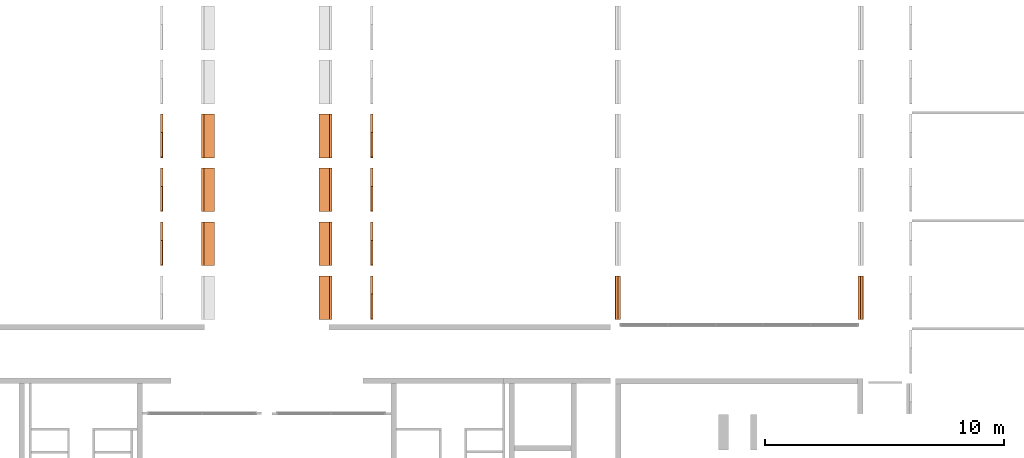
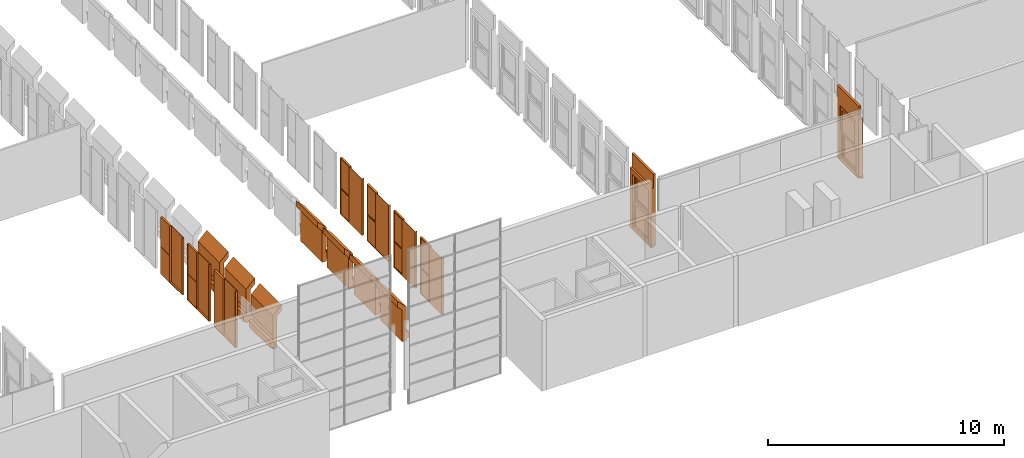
# One storey, part 11 of 16: 16 proxies.
"""IFC2X3 building model written with IfcOpenShell, lengths in millimetres."""

from ifc_helpers import new_model, entity, si_unit, converted_unit, derived_unit, direction, frame, frame_2d, origin, origin_2d_with_axis, place, context, subcontext, project, spatial, polyline, rectangle, outline, extrude, source, transform, mapped, material, material_list, type_object, type_shapes, element, save


model = new_model("IFC2X3")

# Units and contexts
model_context = context("Model", 3, precision=0.01, world=origin(), true_north=direction((6.12303176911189e-17, 1.0)))
body_context = subcontext(model_context, "Body", "Model", "MODEL_VIEW")
ifc_project = project(units=[si_unit("LENGTHUNIT", "METRE", prefix="MILLI"), si_unit("AREAUNIT", "SQUARE_METRE"), si_unit("VOLUMEUNIT", "CUBIC_METRE"), converted_unit("PLANEANGLEUNIT", "DEGREE", entity("IfcRatioMeasure", 0.0174532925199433), si_unit("PLANEANGLEUNIT", "RADIAN"), dimensions=[0, 0, 0, 0, 0, 0, 0]), si_unit("MASSUNIT", "GRAM", prefix="KILO"), derived_unit("MASSDENSITYUNIT", [(si_unit("MASSUNIT", "GRAM", prefix="KILO"), 1), (si_unit("LENGTHUNIT", "METRE"), -3)]), derived_unit("MOMENTOFINERTIAUNIT", [(si_unit("LENGTHUNIT", "METRE"), 4)]), si_unit("TIMEUNIT", "SECOND"), si_unit("FREQUENCYUNIT", "HERTZ"), si_unit("THERMODYNAMICTEMPERATUREUNIT", "DEGREE_CELSIUS"), derived_unit("THERMALTRANSMITTANCEUNIT", [(si_unit("MASSUNIT", "GRAM", prefix="KILO"), 1), (si_unit("THERMODYNAMICTEMPERATUREUNIT", "KELVIN"), -1), (si_unit("TIMEUNIT", "SECOND"), -3)]), derived_unit("VOLUMETRICFLOWRATEUNIT", [(si_unit("LENGTHUNIT", "METRE"), 3), (si_unit("TIMEUNIT", "SECOND"), -1)]), si_unit("ELECTRICCURRENTUNIT", "AMPERE"), si_unit("ELECTRICVOLTAGEUNIT", "VOLT"), si_unit("POWERUNIT", "WATT"), si_unit("FORCEUNIT", "NEWTON", prefix="KILO"), si_unit("ILLUMINANCEUNIT", "LUX"), si_unit("LUMINOUSFLUXUNIT", "LUMEN"), si_unit("LUMINOUSINTENSITYUNIT", "CANDELA"), derived_unit("USERDEFINED", [(si_unit("MASSUNIT", "GRAM", prefix="KILO"), -1), (si_unit("LENGTHUNIT", "METRE"), -2), (si_unit("TIMEUNIT", "SECOND"), 3), (si_unit("LUMINOUSFLUXUNIT", "LUMEN"), 1)]), derived_unit("LINEARVELOCITYUNIT", [(si_unit("LENGTHUNIT", "METRE"), 1), (si_unit("TIMEUNIT", "SECOND"), -1)]), si_unit("PRESSUREUNIT", "PASCAL"), derived_unit("USERDEFINED", [(si_unit("LENGTHUNIT", "METRE"), -2), (si_unit("MASSUNIT", "GRAM", prefix="KILO"), 1), (si_unit("TIMEUNIT", "SECOND"), -2)]), derived_unit("LINEARFORCEUNIT", [(si_unit("MASSUNIT", "GRAM", prefix="KILO"), 1), (si_unit("LENGTHUNIT", "METRE"), 1), (si_unit("TIMEUNIT", "SECOND"), -2), (si_unit("LENGTHUNIT", "METRE"), -1)]), derived_unit("PLANARFORCEUNIT", [(si_unit("MASSUNIT", "GRAM", prefix="KILO"), 1), (si_unit("LENGTHUNIT", "METRE"), 1), (si_unit("TIMEUNIT", "SECOND"), -2), (si_unit("LENGTHUNIT", "METRE"), -2)])], contexts=[model_context])

# Site, building, storey
site_placement = place(None, frame((10627.5135316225, 21939.0796949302, 0.0)))
site = spatial("IfcSite", under=ifc_project, at=site_placement, Name="Default", CompositionType="ELEMENT")
building_placement = place(site_placement, origin())
building = spatial("IfcBuilding", under=site, at=building_placement, CompositionType="ELEMENT")
storey_placement = place(building_placement, frame((0.0, 0.0, 3660.0)))
storey = spatial("IfcBuildingStorey", under=building, at=storey_placement, Name="R+1", CompositionType="ELEMENT", Elevation=3660.0)

# Proxies
ifc_material_1 = material(Name="PVC, Flexible")
ifc_material_2 = material(Name="Glass")
ifc_material_list_1 = material_list([ifc_material_1, ifc_material_2])
building_element_proxy_type_1 = type_object("IfcBuildingElementProxyType", Name="FENETRE.dwg:Fenetre ext 296+70", PredefinedType="NOTDEFINED", material=ifc_material_1)
shared_shape_1 = source(origin(), body_context, "Body", "SweptSolid", [
    extrude(rectangle(XDim=1829.99999999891, YDim=112.500043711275, at=origin_2d_with_axis()), frame((-10.4189092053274, 56.2500218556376, 2960.0), z_axis=(0.0, 0.0, 1.0), x_axis=(-1.0, 0.0, 0.0)), (0.0, 0.0, 1.0), 700.0),
    extrude(outline(polyline([(-68.5678005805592, -14.3879872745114), (-72.4883397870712, -33.9999574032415), (-67.5853472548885, -34.9800922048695), (-63.9024543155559, -16.5569155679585), (44.3087537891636, -16.5569155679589), (54.1101018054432, 32.4730097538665), (40.6268723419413, 35.1683804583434), (40.1368049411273, 32.7168841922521), (51.168538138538, 30.5115808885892), (42.1928709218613, -14.3879872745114), (-68.5678005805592, -14.3879872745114)])), frame((-925.418909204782, 66.917049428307, -47.5499763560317), z_axis=(-1.0, 0.0, 0.0), x_axis=(0.0, 0.980598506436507, -0.196026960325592)), (0.0, 0.0, -1.0), 1829.99999999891),
    extrude(outline(polyline([(-64.667066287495, -56.2500218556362), (66.1666874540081, -56.2500218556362), (66.1666874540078, 56.2500218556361), (-67.6663086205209, 56.2500218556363), (-64.667066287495, -56.2500218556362)])), frame((-925.418909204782, -56.2500218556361, -63.833312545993), z_axis=(1.0, 0.0, 0.0), x_axis=(0.0, 0.0, -1.0)), (0.0, 0.0, 1.0), 1829.99999999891),
    extrude(outline(polyline([(-55.5555555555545, 97.0007159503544), (-55.5555555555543, -5.85738417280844), (-55.5555555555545, -95.357341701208), (-45.5555555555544, -95.3573417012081), (-45.5555555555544, -105.357341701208), (174.444444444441, -105.357341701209), (174.444444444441, 106.642659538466), (-45.5555555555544, 106.642659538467), (-45.5555555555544, 97.0007159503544), (-55.5555555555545, 97.0007159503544)])), frame((849.025535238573, 5.85738417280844, 0.0), z_axis=(0.0, 0.0, -1.0), x_axis=(-1.0, 0.0, 0.0)), (0.0, 0.0, -1.0), 2960.0),
    extrude(rectangle(XDim=199.499957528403, YDim=1369.99999999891, at=origin_2d_with_axis()), frame((-10.4189092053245, 0.250021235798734, 2730.0), z_axis=(0.0, 0.0, 1.0), x_axis=(0.0, 1.0, 0.0)), (0.0, 0.0, 1.0), 230.000000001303),
    extrude(outline(polyline([(-97.0007159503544, -55.5555555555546), (5.85738417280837, -55.5555555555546), (95.357341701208, -55.5555555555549), (95.357341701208, -45.5555555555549), (105.357341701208, -45.5555555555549), (105.357341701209, 174.44444444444), (-106.642659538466, 174.444444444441), (-106.642659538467, -45.5555555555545), (-97.0007159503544, -45.5555555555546), (-97.0007159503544, -55.5555555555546)])), frame((-869.863353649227, 5.85738417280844, 0.0), z_axis=(0.0, 0.0, 1.0), x_axis=(0.0, -1.0, 0.0)), (0.0, 0.0, 1.0), 2960.0),
    extrude(rectangle(XDim=1.0, YDim=1079.99999999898, at=origin_2d_with_axis()), frame((-10.4189092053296, -19.5, 130.0), z_axis=(0.0, 0.0, 1.0), x_axis=(0.0, 1.0, 0.0)), (0.0, 0.0, 1.0), 1120.00000000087),
    extrude(rectangle(XDim=1.0, YDim=1079.99999999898, at=frame_2d((-4.21884749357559e-15, 0.0), x_axis=(1.0, 0.0))), frame((-10.4189092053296, -30.5, 130.0), z_axis=(0.0, 0.0, 1.0), x_axis=(0.0, 1.0, 0.0)), (0.0, 0.0, 1.0), 1120.00000000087),
    extrude(rectangle(XDim=1.0, YDim=1079.99999999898, at=frame_2d((-4.21884749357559e-15, 0.0), x_axis=(1.0, 0.0))), frame((-10.4189092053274, 69.5, 1465.0), z_axis=(0.0, 0.0, 1.0), x_axis=(0.0, 1.0, 0.0)), (0.0, 0.0, 1.0), 1120.0),
    extrude(rectangle(XDim=0.999999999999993, YDim=1079.99999999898, at=frame_2d((-8.46545056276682e-15, 0.0), x_axis=(1.0, 0.0))), frame((-10.4189092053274, 80.5, 1465.0), z_axis=(0.0, 0.0, 1.0), x_axis=(0.0, 1.0, 0.0)), (0.0, 0.0, 1.0), 1120.00000000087),
    extrude(outline(polyline([(-685.0, -1365.0), (0.0, -1365.0), (685.0, -1365.0), (685.0, 1365.0), (0.0, 1365.0), (-685.0, 1365.0), (-685.0, -1365.0)]), holes=[polyline([(-640.0, -1320.0), (-640.0, -45.0), (0.0, -45.0), (640.0, -45.0), (640.0, -1320.0), (0.0, -1320.0), (-640.0, -1320.0)]), polyline([(-640.0, 40.0), (-640.0, 1315.0), (0.0, 1315.0), (640.0, 1315.0), (640.0, 40.0), (0.0, 40.0), (-640.0, 40.0)])]), frame((-10.4189092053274, 0.0, 1365.0), z_axis=(0.0, 1.0, 0.0), x_axis=(1.0, 0.0, 0.0)), (0.0, 0.0, 1.0), 50.0),
    extrude(outline(polyline([(-655.0, -667.500000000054), (655.0, -667.500000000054), (655.0, 667.500000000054), (-655.0, 667.500000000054), (-655.0, -667.500000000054)]), holes=[polyline([(-540.0, 552.500000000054), (540.0, 552.500000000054), (540.0, -567.500000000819), (-540.0, -567.500000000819), (-540.0, 552.500000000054)])]), frame((-10.4189092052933, -50.0, 697.500000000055), z_axis=(0.0, 1.0, 0.0), x_axis=(-1.0, 0.0, 0.0)), (0.0, 0.0, 1.0), 50.0),
    extrude(outline(polyline([(-655.0, -667.500000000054), (655.0, -667.500000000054), (655.0, 667.500000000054), (-655.0, 667.500000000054), (-655.0, -667.500000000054)]), holes=[polyline([(-540.0, 552.500000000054), (540.0, 552.500000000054), (540.0, -567.500000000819), (-540.0, -567.500000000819), (-540.0, 552.500000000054)])]), frame((-10.4189092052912, 50.0, 2032.50000000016), z_axis=(0.0, 1.0, 0.0), x_axis=(-1.0, 0.0, 0.0)), (0.0, 0.0, 1.0), 50.0),
])
type_shapes(building_element_proxy_type_1, [shared_shape_1])
proxy_1_placement = place(storey_placement, frame((51469.9865120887, -14018.6607857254, 0.0), z_axis=(0.0, 0.0, 1.0), x_axis=(0.0, 1.0, 0.0)))
element("IfcBuildingElementProxy", 1, at=proxy_1_placement, inside=storey, type_object=building_element_proxy_type_1, material=ifc_material_list_1, Name="FENETRE.dwg:Fenetre ext 296+70", ObjectType="FENETRE.dwg:Fenetre ext 296+70", context=body_context, shape_type="MappedRepresentation", body=[
    mapped(shared_shape_1, transform((0.0, 0.0, 0.0), scale=1.0)),
])
ifc_material_list_2 = material_list([ifc_material_1, ifc_material_2])
building_element_proxy_type_2 = type_object("IfcBuildingElementProxyType", Name="FENETRE.dwg:Fenetre ext 296+70", PredefinedType="NOTDEFINED", material=ifc_material_1)
shared_shape_2 = source(origin(), body_context, "Body", "SweptSolid", [
    extrude(rectangle(XDim=112.500043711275, YDim=1829.99999999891, at=origin_2d_with_axis()), frame((-10.4189092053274, -56.2500218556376, 2960.0), z_axis=(0.0, 0.0, 1.0), x_axis=(0.0, 1.0, 0.0)), (0.0, 0.0, 1.0), 700.0),
    extrude(outline(polyline([(27.5499763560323, -64.4170494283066), (47.5499763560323, -64.4170494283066), (47.5499763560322, -59.4170494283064), (28.7622905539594, -59.4170494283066), (7.54997635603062, 46.6946996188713), (-42.4500236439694, 46.6946996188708), (-42.4500236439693, 32.9446996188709), (-39.9500236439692, 32.9446996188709), (-39.9500236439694, 44.1946996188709), (5.83789859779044, 44.1946996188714), (27.5499763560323, -64.4170494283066)])), frame((-925.418909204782, -66.917049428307, -47.5499763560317), z_axis=(1.0, 0.0, 0.0), x_axis=(0.0, 0.0, 1.0)), (0.0, 0.0, 1.0), 1829.99999999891),
    extrude(outline(polyline([(-54.506636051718, -66.1431859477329), (58.0333803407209, -66.1431859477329), (54.4666704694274, 67.6422744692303), (-57.9934147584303, 64.6440974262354), (-54.506636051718, -66.1431859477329)])), frame((-925.418909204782, 56.2500218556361, -63.833312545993), z_axis=(1.0, 0.0, 0.0), x_axis=(0.0, -0.999644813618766, 0.0266504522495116)), (0.0, 0.0, 1.0), 1829.99999999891),
    extrude(outline(polyline([(-97.0007159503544, -55.5555555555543), (5.85738417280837, -55.5555555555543), (95.357341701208, -55.5555555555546), (95.357341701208, -45.5555555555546), (105.357341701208, -45.5555555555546), (105.357341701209, 174.444444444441), (-106.642659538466, 174.444444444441), (-106.642659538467, -45.5555555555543), (-97.0007159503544, -45.5555555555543), (-97.0007159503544, -55.5555555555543)])), frame((849.025535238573, -5.85738417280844, 0.0), z_axis=(0.0, 0.0, 1.0), x_axis=(0.0, 1.0, 0.0)), (0.0, 0.0, 1.0), 2960.0),
    extrude(rectangle(XDim=1369.99999999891, YDim=199.499957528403, at=origin_2d_with_axis()), frame((-10.4189092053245, -0.250021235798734, 2730.0), z_axis=(0.0, 0.0, 1.0), x_axis=(-1.0, 0.0, 0.0)), (0.0, 0.0, 1.0), 230.000000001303),
    extrude(outline(polyline([(-55.5555555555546, 97.0007159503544), (-55.5555555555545, -5.85738417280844), (-55.5555555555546, -95.357341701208), (-45.5555555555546, -95.3573417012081), (-45.5555555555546, -105.357341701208), (174.444444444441, -105.357341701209), (174.444444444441, 106.642659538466), (-45.5555555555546, 106.642659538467), (-45.5555555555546, 97.0007159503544), (-55.5555555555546, 97.0007159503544)])), frame((-869.863353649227, -5.85738417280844, 0.0), z_axis=(0.0, 0.0, -1.0), x_axis=(1.0, 0.0, 0.0)), (0.0, 0.0, -1.0), 2960.0),
    extrude(rectangle(XDim=1079.99999999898, YDim=1.0, at=origin_2d_with_axis()), frame((-10.4189092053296, 19.5, 130.0), z_axis=(0.0, 0.0, 1.0), x_axis=(-1.0, 0.0, 0.0)), (0.0, 0.0, 1.0), 1120.00000000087),
    extrude(rectangle(XDim=1079.99999999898, YDim=1.0, at=origin_2d_with_axis()), frame((-10.4189092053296, 30.5, 130.0), z_axis=(0.0, 0.0, 1.0), x_axis=(-1.0, 0.0, 0.0)), (0.0, 0.0, 1.0), 1120.00000000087),
    extrude(rectangle(XDim=1079.99999999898, YDim=1.0, at=frame_2d((0.0, 4.21884749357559e-15), x_axis=(1.0, 0.0))), frame((-10.4189092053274, -69.5, 1465.0), z_axis=(0.0, 0.0, 1.0), x_axis=(-1.0, 0.0, 0.0)), (0.0, 0.0, 1.0), 1120.0),
    extrude(rectangle(XDim=1079.99999999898, YDim=0.999999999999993, at=frame_2d((0.0, -8.46545056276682e-15), x_axis=(1.0, 0.0))), frame((-10.4189092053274, -80.5, 1465.0), z_axis=(0.0, 0.0, 1.0), x_axis=(-1.0, 0.0, 0.0)), (0.0, 0.0, 1.0), 1120.00000000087),
    extrude(outline(polyline([(-685.0, -1365.0), (0.0, -1365.0), (685.0, -1365.0), (685.0, 1365.0), (0.0, 1365.0), (-685.0, 1365.0), (-685.0, -1365.0)]), holes=[polyline([(-640.0, -1320.0), (-640.0, -45.0), (0.0, -45.0), (640.0, -45.0), (640.0, -1320.0), (0.0, -1320.0), (-640.0, -1320.0)]), polyline([(-640.0, 40.0), (-640.0, 1315.0), (0.0, 1315.0), (640.0, 1315.0), (640.0, 40.0), (0.0, 40.0), (-640.0, 40.0)])]), frame((-10.4189092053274, -50.0, 1365.0), z_axis=(0.0, 1.0, 0.0), x_axis=(1.0, 0.0, 0.0)), (0.0, 0.0, 1.0), 50.0),
    extrude(outline(polyline([(-655.0, -667.500000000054), (655.0, -667.500000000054), (655.0, 667.500000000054), (-655.0, 667.500000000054), (-655.0, -667.500000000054)]), holes=[polyline([(-540.0, 552.500000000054), (540.0, 552.500000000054), (540.0, -567.500000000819), (-540.0, -567.500000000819), (-540.0, 552.500000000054)])]), frame((-10.4189092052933, 0.0, 697.500000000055), z_axis=(0.0, 1.0, 0.0), x_axis=(-1.0, 0.0, 0.0)), (0.0, 0.0, 1.0), 50.0),
    extrude(outline(polyline([(-655.0, -667.500000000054), (655.0, -667.500000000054), (655.0, 667.500000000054), (-655.0, 667.500000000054), (-655.0, -667.500000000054)]), holes=[polyline([(-540.0, 552.500000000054), (540.0, 552.500000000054), (540.0, -567.500000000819), (-540.0, -567.500000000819), (-540.0, 552.500000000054)])]), frame((-10.4189092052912, -100.0, 2032.50000000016), z_axis=(0.0, 1.0, 0.0), x_axis=(-1.0, 0.0, 0.0)), (0.0, 0.0, 1.0), 50.0),
])
type_shapes(building_element_proxy_type_2, [shared_shape_2])
proxy_2_placement = place(storey_placement, frame((41294.0694789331, -14018.6607857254, 0.0), z_axis=(0.0, 0.0, 1.0), x_axis=(0.0, 1.0, 0.0)))
element("IfcBuildingElementProxy", 2, at=proxy_2_placement, inside=storey, type_object=building_element_proxy_type_2, material=ifc_material_list_2, Name="FENETRE.dwg:Fenetre ext 296+70", ObjectType="FENETRE.dwg:Fenetre ext 296+70", context=body_context, shape_type="MappedRepresentation", body=[
    mapped(shared_shape_2, transform((0.0, 0.0, 0.0), scale=1.0)),
])
ifc_material_3 = material(Name="Plywood, Sheathing")
ifc_material_list_3 = material_list([ifc_material_3, ifc_material_2])
building_element_proxy_type_3 = type_object("IfcBuildingElementProxyType", Name="Porte noire:Porte noire", PredefinedType="NOTDEFINED", material=ifc_material_3)
shared_shape_3 = source(origin(), body_context, "Body", "SweptSolid", [
    extrude(rectangle(XDim=100.0, YDim=23.0000000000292, at=origin_2d_with_axis()), frame((-950.918997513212, -50.0, 8.73189890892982), z_axis=(0.0, 0.0, 1.0), x_axis=(0.0, 1.0, 0.0)), (0.0, 0.0, 1.0), 2933.34951039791),
    extrude(rectangle(XDim=19.0, YDim=1038.0, at=frame_2d((7.99360577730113e-15, 0.0), x_axis=(1.0, 0.0))), frame((-420.418997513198, -87.5, 43.7318989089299), z_axis=(0.0, 0.0, 1.0), x_axis=(0.0, 1.0, 0.0)), (0.0, 0.0, 1.0), 2898.5),
    extrude(rectangle(XDim=100.0, YDim=1775.0, at=origin_2d_with_axis()), frame((-51.9189975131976, -50.0, 8.73189890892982), z_axis=(0.0, 0.0, 1.0), x_axis=(0.0, 1.0, 0.0)), (0.0, 0.0, 1.0), 35.0000000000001),
    extrude(rectangle(XDim=100.0, YDim=35.0000000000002, at=origin_2d_with_axis()), frame((853.081002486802, -50.0, 8.73189890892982), z_axis=(0.0, 0.0, 1.0), x_axis=(0.0, 1.0, 0.0)), (0.0, 0.0, 1.0), 2898.5),
    extrude(rectangle(XDim=100.0, YDim=740.0, at=origin_2d_with_axis()), frame((500.581002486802, -50.0, 2907.23189890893), z_axis=(0.0, 0.0, 1.0), x_axis=(0.0, 1.0, 0.0)), (0.0, 0.0, 1.0), 35.0000000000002),
    extrude(rectangle(XDim=100.0, YDim=31.9999999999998, at=origin_2d_with_axis()), frame((114.581002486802, -50.0, 43.7318989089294), z_axis=(0.0, 0.0, 1.0), x_axis=(0.0, 1.0, 0.0)), (0.0, 0.0, 1.0), 2898.5),
    extrude(rectangle(XDim=100.0, YDim=705.0, at=origin_2d_with_axis()), frame((483.081002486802, -50.0, 1343.73189890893), z_axis=(0.0, 0.0, 1.0), x_axis=(0.0, 1.0, 0.0)), (0.0, 0.0, 1.0), 55.0),
    extrude(outline(polyline([(-352.5, -650.0), (352.5, -650.0), (352.5, 650.0), (-352.5, 650.0), (-352.5, -650.0)]), holes=[polyline([(342.5, 640.0), (342.5, -640.0), (-342.5, -640.0), (-342.5, 640.0), (342.5, 640.0)])]), frame((483.081002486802, -80.0, 693.73189890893), z_axis=(0.0, 1.0, 0.0), x_axis=(1.0, 0.0, 0.0)), (0.0, 0.0, 1.0), 70.0),
    extrude(outline(polyline([(-754.25, -352.5), (754.25, -352.5), (754.25, 352.5), (-754.25, 352.5), (-754.25, -352.5)]), holes=[polyline([(744.25, 342.5), (744.25, -342.5), (-744.25, -342.5), (-744.25, 342.5), (744.25, 342.5)])]), frame((483.081002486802, -80.0, 2152.98189890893), z_axis=(0.0, 1.0, 0.0), x_axis=(0.0, 0.0, 1.0)), (0.0, 0.0, 1.0), 70.0),
    extrude(outline(polyline([(-640.0, -342.5), (640.0, -342.5), (640.0, 342.5), (-640.0, 342.5), (-640.0, -342.5)]), holes=[polyline([(630.0, 332.5), (630.0, -332.5), (-630.0, -332.5), (-630.0, 332.5), (630.0, 332.5)])]), frame((483.081002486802, -81.0, 693.731898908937), z_axis=(0.0, 1.0, 0.0), x_axis=(0.0, 0.0, 1.0)), (0.0, 0.0, 1.0), 3.99999999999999),
    extrude(outline(polyline([(-744.25, -342.5), (744.25, -342.5), (744.25, 342.5), (-744.25, 342.5), (-744.25, -342.5)]), holes=[polyline([(734.25, 332.5), (734.25, -332.5), (-734.25, -332.5), (-734.25, 332.5), (734.25, 332.5)])]), frame((483.081002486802, -81.0, 2152.98189890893), z_axis=(0.0, 1.0, 0.0), x_axis=(0.0, 0.0, 1.0)), (0.0, 0.0, 1.0), 3.99999999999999),
    extrude(outline(polyline([(-640.0, -342.5), (640.0, -342.5), (640.0, 342.5), (-640.0, 342.5), (-640.0, -342.5)]), holes=[polyline([(630.0, 332.5), (630.0, -332.5), (-630.0, -332.5), (-630.0, 332.5), (630.0, 332.5)])]), frame((483.081002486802, -15.0, 693.782575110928), z_axis=(0.0, 1.0, 0.0), x_axis=(0.0, 0.0, 1.0)), (0.0, 0.0, 1.0), 5.0),
    extrude(outline(polyline([(-744.25, -342.5), (744.25, -342.5), (744.25, 342.5), (-744.25, 342.5), (-744.25, -342.5)]), holes=[polyline([(734.25, 332.5), (734.25, -332.5), (-734.25, -332.5), (-734.25, 332.5), (734.25, 332.5)])]), frame((483.081002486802, -15.0, 2153.03257511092), z_axis=(0.0, 1.0, 0.0), x_axis=(0.0, 0.0, 1.0)), (0.0, 0.0, 1.0), 5.0),
    extrude(rectangle(XDim=2.0, YDim=665.0, at=frame_2d((8.43769498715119e-15, 0.0), x_axis=(1.0, 0.0))), frame((483.081002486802, -79.0, 1418.73189890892), z_axis=(0.0, 0.0, 1.0), x_axis=(0.0, 1.0, 0.0)), (0.0, 0.0, 1.0), 1468.50000000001),
    extrude(rectangle(XDim=2.0, YDim=665.0, at=frame_2d((8.43769498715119e-15, 0.0), x_axis=(1.0, 0.0))), frame((483.081002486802, -79.0, 63.7318989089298), z_axis=(0.0, 0.0, 1.0), x_axis=(0.0, 1.0, 0.0)), (0.0, 0.0, 1.0), 1260.0),
    extrude(rectangle(XDim=2.0, YDim=665.0, at=frame_2d((1.0547118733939e-15, 0.0), x_axis=(1.0, 0.0))), frame((483.081002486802, -13.0, 1418.78257511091), z_axis=(0.0, 0.0, 1.0), x_axis=(0.0, 1.0, 0.0)), (0.0, 0.0, 1.0), 1468.50000000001),
    extrude(rectangle(XDim=2.0, YDim=665.0, at=frame_2d((1.0547118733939e-15, 0.0), x_axis=(1.0, 0.0))), frame((483.081002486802, -13.0, 63.7825751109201), z_axis=(0.0, 0.0, 1.0), x_axis=(0.0, 1.0, 0.0)), (0.0, 0.0, 1.0), 1260.0),
])
type_shapes(building_element_proxy_type_3, [shared_shape_3])
proxy_3_placement = place(storey_placement, frame((22127.8464640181, -11722.6606974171, 0.0), z_axis=(0.0, 0.0, 1.0), x_axis=(0.0, 1.0, 0.0)))
element("IfcBuildingElementProxy", 3, at=proxy_3_placement, inside=storey, type_object=building_element_proxy_type_3, material=ifc_material_list_3, Name="Porte noire:Porte noire", ObjectType="Porte noire:Porte noire", context=body_context, shape_type="MappedRepresentation", body=[
    mapped(shared_shape_3, transform((0.0, 0.0, 0.0), scale=1.0)),
])
ifc_material_list_4 = material_list([ifc_material_3, ifc_material_2])
proxy_4_placement = place(storey_placement, frame((22127.8464640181, -9462.66069741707, 0.0), z_axis=(0.0, 0.0, 1.0), x_axis=(0.0, 1.0, 0.0)))
element("IfcBuildingElementProxy", 4, at=proxy_4_placement, inside=storey, type_object=building_element_proxy_type_3, material=ifc_material_list_4, Name="Porte noire:Porte noire", ObjectType="Porte noire:Porte noire", context=body_context, shape_type="MappedRepresentation", body=[
    mapped(shared_shape_3, transform((0.0, 0.0, 0.0), scale=1.0)),
])
ifc_material_list_5 = material_list([ifc_material_3, ifc_material_2])
proxy_5_placement = place(storey_placement, frame((22127.8464640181, -7202.66069741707, 0.0), z_axis=(0.0, 0.0, 1.0), x_axis=(0.0, 1.0, 0.0)))
element("IfcBuildingElementProxy", 5, at=proxy_5_placement, inside=storey, type_object=building_element_proxy_type_3, material=ifc_material_list_5, Name="Porte noire:Porte noire", ObjectType="Porte noire:Porte noire", context=body_context, shape_type="MappedRepresentation", body=[
    mapped(shared_shape_3, transform((0.0, 0.0, 0.0), scale=1.0)),
])
ifc_material_list_6 = material_list([ifc_material_3, ifc_material_2])
building_element_proxy_type_4 = type_object("IfcBuildingElementProxyType", Name="Porte noire:Porte noire", PredefinedType="NOTDEFINED", material=ifc_material_3)
shared_shape_4 = source(origin(), body_context, "Body", "SweptSolid", [
    extrude(rectangle(XDim=23.0000000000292, YDim=100.0, at=frame_2d((-1.35891298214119e-13, 0.0), x_axis=(1.0, 0.0))), frame((-950.918997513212, 50.0, 8.73189890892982), z_axis=(0.0, 0.0, 1.0), x_axis=(-1.0, 0.0, 0.0)), (0.0, 0.0, 1.0), 2933.34951039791),
    extrude(rectangle(XDim=1038.0, YDim=19.0, at=frame_2d((0.0, 7.99360577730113e-15), x_axis=(1.0, 0.0))), frame((-420.418997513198, 87.5, 43.7318989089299), z_axis=(0.0, 0.0, 1.0), x_axis=(-1.0, 0.0, 0.0)), (0.0, 0.0, 1.0), 2898.5),
    extrude(rectangle(XDim=1775.0, YDim=100.0, at=origin_2d_with_axis()), frame((-51.9189975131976, 50.0, 8.73189890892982), z_axis=(0.0, 0.0, 1.0), x_axis=(-1.0, 0.0, 0.0)), (0.0, 0.0, 1.0), 35.0000000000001),
    extrude(rectangle(XDim=35.0000000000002, YDim=100.0, at=origin_2d_with_axis()), frame((853.081002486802, 50.0, 8.73189890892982), z_axis=(0.0, 0.0, 1.0), x_axis=(-1.0, 0.0, 0.0)), (0.0, 0.0, 1.0), 2898.5),
    extrude(rectangle(XDim=740.0, YDim=100.0, at=origin_2d_with_axis()), frame((500.581002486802, 50.0, 2907.23189890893), z_axis=(0.0, 0.0, 1.0), x_axis=(-1.0, 0.0, 0.0)), (0.0, 0.0, 1.0), 35.0000000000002),
    extrude(rectangle(XDim=31.9999999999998, YDim=100.0, at=origin_2d_with_axis()), frame((114.581002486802, 50.0, 43.7318989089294), z_axis=(0.0, 0.0, 1.0), x_axis=(-1.0, 0.0, 0.0)), (0.0, 0.0, 1.0), 2898.5),
    extrude(rectangle(XDim=705.0, YDim=100.0, at=origin_2d_with_axis()), frame((483.081002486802, 50.0, 1343.73189890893), z_axis=(0.0, 0.0, 1.0), x_axis=(-1.0, 0.0, 0.0)), (0.0, 0.0, 1.0), 55.0),
    extrude(outline(polyline([(-352.5, -650.0), (352.5, -650.0), (352.5, 650.0), (-352.5, 650.0), (-352.5, -650.0)]), holes=[polyline([(342.5, 640.0), (342.5, -640.0), (-342.5, -640.0), (-342.5, 640.0), (342.5, 640.0)])]), frame((483.081002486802, 10.0, 693.73189890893), z_axis=(0.0, 1.0, 0.0), x_axis=(1.0, 0.0, 0.0)), (0.0, 0.0, 1.0), 70.0),
    extrude(outline(polyline([(-754.25, -352.5), (754.25, -352.5), (754.25, 352.5), (-754.25, 352.5), (-754.25, -352.5)]), holes=[polyline([(744.25, 342.5), (744.25, -342.5), (-744.25, -342.5), (-744.25, 342.5), (744.25, 342.5)])]), frame((483.081002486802, 10.0, 2152.98189890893), z_axis=(0.0, 1.0, 0.0), x_axis=(0.0, 0.0, 1.0)), (0.0, 0.0, 1.0), 70.0),
    extrude(outline(polyline([(-640.0, -342.5), (640.0, -342.5), (640.0, 342.5), (-640.0, 342.5), (-640.0, -342.5)]), holes=[polyline([(630.0, 332.5), (630.0, -332.5), (-630.0, -332.5), (-630.0, 332.5), (630.0, 332.5)])]), frame((483.081002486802, 77.0, 693.731898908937), z_axis=(0.0, 1.0, 0.0), x_axis=(0.0, 0.0, 1.0)), (0.0, 0.0, 1.0), 3.99999999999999),
    extrude(outline(polyline([(-744.25, -342.5), (744.25, -342.5), (744.25, 342.5), (-744.25, 342.5), (-744.25, -342.5)]), holes=[polyline([(734.25, 332.5), (734.25, -332.5), (-734.25, -332.5), (-734.25, 332.5), (734.25, 332.5)])]), frame((483.081002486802, 77.0, 2152.98189890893), z_axis=(0.0, 1.0, 0.0), x_axis=(0.0, 0.0, 1.0)), (0.0, 0.0, 1.0), 3.99999999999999),
    extrude(outline(polyline([(-640.0, -342.5), (640.0, -342.5), (640.0, 342.5), (-640.0, 342.5), (-640.0, -342.5)]), holes=[polyline([(630.0, 332.5), (630.0, -332.5), (-630.0, -332.5), (-630.0, 332.5), (630.0, 332.5)])]), frame((483.081002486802, 10.0, 693.782575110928), z_axis=(0.0, 1.0, 0.0), x_axis=(0.0, 0.0, 1.0)), (0.0, 0.0, 1.0), 5.0),
    extrude(outline(polyline([(-744.25, -342.5), (744.25, -342.5), (744.25, 342.5), (-744.25, 342.5), (-744.25, -342.5)]), holes=[polyline([(734.25, 332.5), (734.25, -332.5), (-734.25, -332.5), (-734.25, 332.5), (734.25, 332.5)])]), frame((483.081002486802, 10.0, 2153.03257511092), z_axis=(0.0, 1.0, 0.0), x_axis=(0.0, 0.0, 1.0)), (0.0, 0.0, 1.0), 5.0),
    extrude(rectangle(XDim=665.0, YDim=2.0, at=frame_2d((0.0, 8.43769498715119e-15), x_axis=(1.0, 0.0))), frame((483.081002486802, 79.0, 1418.73189890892), z_axis=(0.0, 0.0, 1.0), x_axis=(-1.0, 0.0, 0.0)), (0.0, 0.0, 1.0), 1468.50000000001),
    extrude(rectangle(XDim=665.0, YDim=2.0, at=frame_2d((0.0, 8.43769498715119e-15), x_axis=(1.0, 0.0))), frame((483.081002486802, 79.0, 63.7318989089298), z_axis=(0.0, 0.0, 1.0), x_axis=(-1.0, 0.0, 0.0)), (0.0, 0.0, 1.0), 1260.0),
    extrude(rectangle(XDim=665.0, YDim=2.0, at=frame_2d((0.0, 1.0547118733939e-15), x_axis=(1.0, 0.0))), frame((483.081002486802, 13.0, 1418.78257511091), z_axis=(0.0, 0.0, 1.0), x_axis=(-1.0, 0.0, 0.0)), (0.0, 0.0, 1.0), 1468.50000000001),
    extrude(rectangle(XDim=665.0, YDim=2.0, at=frame_2d((0.0, 1.0547118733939e-15), x_axis=(1.0, 0.0))), frame((483.081002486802, 13.0, 63.7825751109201), z_axis=(0.0, 0.0, 1.0), x_axis=(-1.0, 0.0, 0.0)), (0.0, 0.0, 1.0), 1260.0),
])
type_shapes(building_element_proxy_type_4, [shared_shape_4])
proxy_6_placement = place(storey_placement, frame((31027.1264727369, -13982.6606974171, 0.0), z_axis=(0.0, 0.0, 1.0), x_axis=(0.0, 1.0, 0.0)))
element("IfcBuildingElementProxy", 6, at=proxy_6_placement, inside=storey, type_object=building_element_proxy_type_4, material=ifc_material_list_6, Name="Porte noire:Porte noire", ObjectType="Porte noire:Porte noire", context=body_context, shape_type="MappedRepresentation", body=[
    mapped(shared_shape_4, transform((0.0, 0.0, 0.0), scale=1.0)),
])
ifc_material_list_7 = material_list([ifc_material_3, ifc_material_2])
proxy_7_placement = place(storey_placement, frame((31027.1264727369, -11722.6606974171, 0.0), z_axis=(0.0, 0.0, 1.0), x_axis=(0.0, 1.0, 0.0)))
element("IfcBuildingElementProxy", 7, at=proxy_7_placement, inside=storey, type_object=building_element_proxy_type_4, material=ifc_material_list_7, Name="Porte noire:Porte noire", ObjectType="Porte noire:Porte noire", context=body_context, shape_type="MappedRepresentation", body=[
    mapped(shared_shape_4, transform((0.0, 0.0, 0.0), scale=1.0)),
])
ifc_material_list_8 = material_list([ifc_material_3, ifc_material_2])
proxy_8_placement = place(storey_placement, frame((31027.1264727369, -9462.66069741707, 0.0), z_axis=(0.0, 0.0, 1.0), x_axis=(0.0, 1.0, 0.0)))
element("IfcBuildingElementProxy", 8, at=proxy_8_placement, inside=storey, type_object=building_element_proxy_type_4, material=ifc_material_list_8, Name="Porte noire:Porte noire", ObjectType="Porte noire:Porte noire", context=body_context, shape_type="MappedRepresentation", body=[
    mapped(shared_shape_4, transform((0.0, 0.0, 0.0), scale=1.0)),
])
ifc_material_list_9 = material_list([ifc_material_3, ifc_material_2])
proxy_9_placement = place(storey_placement, frame((31027.1264727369, -7202.66069741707, 0.0), z_axis=(0.0, 0.0, 1.0), x_axis=(0.0, 1.0, 0.0)))
element("IfcBuildingElementProxy", 9, at=proxy_9_placement, inside=storey, type_object=building_element_proxy_type_4, material=ifc_material_list_9, Name="Porte noire:Porte noire", ObjectType="Porte noire:Porte noire", context=body_context, shape_type="MappedRepresentation", body=[
    mapped(shared_shape_4, transform((0.0, 0.0, 0.0), scale=1.0)),
])
ifc_material_4 = material(Name="Concrete, Precast Smooth, Light Grey")
building_element_proxy_type_5 = type_object("IfcBuildingElementProxyType", Name="Panneaux mediateque:Panneaux mediateque", PredefinedType="NOTDEFINED", material=ifc_material_4)
shared_shape_5 = source(origin(), body_context, "Body", "SweptSolid", [
    extrude(outline(polyline([(-998.434688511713, -508.899393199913), (-1213.39514999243, -723.859854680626), (-605.283318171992, -723.859854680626), (115.965598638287, -2.61093787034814), (101.823463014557, 11.5311977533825), (296.277827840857, 205.985562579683), (310.419963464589, 191.843426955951), (395.272229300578, 106.991161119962), (639.224068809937, 350.943000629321), (554.371802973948, 435.79526646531), (625.082466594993, 506.505930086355), (473.054508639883, 658.533888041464), (-694.378772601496, -508.899393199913), (-998.434688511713, -508.899393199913)])), frame((0.0, -203.845498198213, 800.153828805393), z_axis=(-1.0, 0.0, 0.0), x_axis=(0.0, 0.707106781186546, -0.707106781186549)), (0.0, 0.0, -1.0), 1830.0),
])
type_shapes(building_element_proxy_type_5, [shared_shape_5])
for number, where, z_axis, x_axis, name in (
    (10, (23837.4872432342, -8164.07969493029, -700.0), (0.0, 0.0, 1.0), (0.0, 1.0, 0.0), "Panneaux mediateque:Panneaux mediateque"),
    (11, (23837.4872432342, -10424.0796949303, -700.0), (0.0, 0.0, 1.0), (0.0, 1.0, 0.0), "Panneaux mediateque:Panneaux mediateque"),
    (12, (23837.4872432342, -12684.0796949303, -700.0), (0.0, 0.0, 1.0), (0.0, 1.0, 0.0), "Panneaux mediateque:Panneaux mediateque"),
):
    element("IfcBuildingElementProxy", number, at=place(storey_placement, frame(where, z_axis=z_axis, x_axis=x_axis)), inside=storey, type_object=building_element_proxy_type_5, material=ifc_material_4, Name=name, ObjectType="Panneaux mediateque:Panneaux mediateque", context=body_context, shape_type="MappedRepresentation", body=[
        mapped(shared_shape_5, transform((0.0, 0.0, 0.0), scale=1.0)),
    ])
building_element_proxy_type_6 = type_object("IfcBuildingElementProxyType", Name="Panneaux mediateque:Panneaux mediateque", PredefinedType="NOTDEFINED", material=ifc_material_4)
shared_shape_6 = source(origin(), body_context, "Body", "SweptSolid", [
    extrude(outline(polyline([(1065.84615069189, -346.153726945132), (1369.84615069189, -346.153726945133), (939.84615069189, 83.8462730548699), (-80.1538493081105, 83.8462730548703), (-80.1538493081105, 63.8462730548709), (-355.15384930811, 63.8462730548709), (-355.15384930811, 83.8462730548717), (-355.15384930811, 203.845498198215), (-700.153849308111, 203.845498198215), (-700.153849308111, 83.8462730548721), (-800.153828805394, 83.8462730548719), (-800.153828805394, -131.153726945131), (850.846150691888, -131.153726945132), (1065.84615069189, -346.153726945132)])), frame((0.0, 203.845498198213, 800.153828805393), z_axis=(1.0, 0.0, 0.0), x_axis=(0.0, 0.0, 1.0)), (0.0, 0.0, 1.0), 1830.0),
])
type_shapes(building_element_proxy_type_6, [shared_shape_6])
for number, where, z_axis, x_axis, name in (
    (13, (29317.4856935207, -8164.07969493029, -700.0), (0.0, 0.0, 1.0), (0.0, 1.0, 0.0), "Panneaux mediateque:Panneaux mediateque"),
    (14, (29317.4856935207, -10424.0796949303, -700.0), (0.0, 0.0, 1.0), (0.0, 1.0, 0.0), "Panneaux mediateque:Panneaux mediateque"),
    (15, (29317.4856935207, -12684.0796949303, -700.0), (0.0, 0.0, 1.0), (0.0, 1.0, 0.0), "Panneaux mediateque:Panneaux mediateque"),
    (16, (29317.4856935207, -14944.0796949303, -700.0), (0.0, 0.0, 1.0), (0.0, 1.0, 0.0), "Panneaux mediateque:Panneaux mediateque"),
):
    element("IfcBuildingElementProxy", number, at=place(storey_placement, frame(where, z_axis=z_axis, x_axis=x_axis)), inside=storey, type_object=building_element_proxy_type_6, material=ifc_material_4, Name=name, ObjectType="Panneaux mediateque:Panneaux mediateque", context=body_context, shape_type="MappedRepresentation", body=[
        mapped(shared_shape_6, transform((0.0, 0.0, 0.0), scale=1.0)),
    ])

save(model, "model.ifc")
